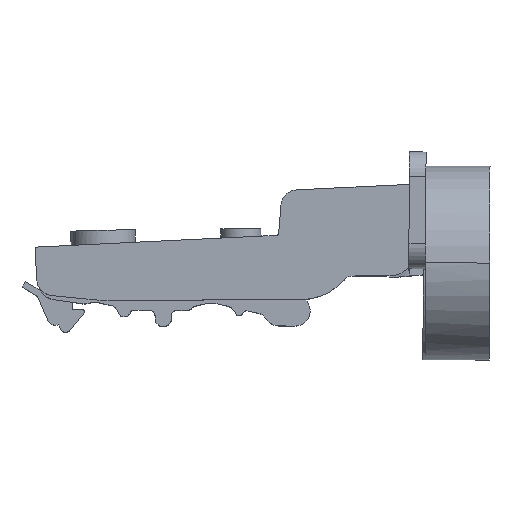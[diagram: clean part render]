
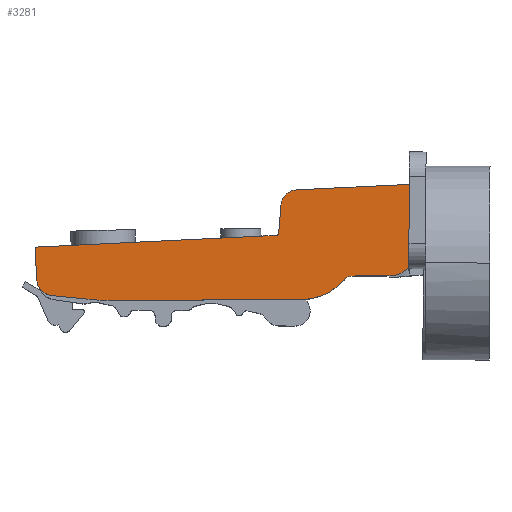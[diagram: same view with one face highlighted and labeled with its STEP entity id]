
A CAD part, top view. The second image highlights one B-rep face of the part: STEP entity #3281.
In plain terms, the highlighted planar face has unit normal (0, 0, 1).
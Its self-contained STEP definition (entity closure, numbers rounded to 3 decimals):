
#126 = DIRECTION ( 'NONE',  ( -0.005, -1., 0. ) ) ;
#179 = CARTESIAN_POINT ( 'NONE',  ( 9.227, 8.721, 0. ) ) ;
#188 = CARTESIAN_POINT ( 'NONE',  ( 0.985, 3.483, 0. ) ) ;
#225 = EDGE_CURVE ( 'NONE', #2220, #3411, #3207, .T. ) ;
#313 = CARTESIAN_POINT ( 'NONE',  ( 12.701, 20.652, 0. ) ) ;
#338 = CARTESIAN_POINT ( 'NONE',  ( -11.253, 11.984, 0. ) ) ;
#362 = AXIS2_PLACEMENT_3D ( 'NONE', #1725, #600, #3618 ) ;
#369 = CIRCLE ( 'NONE', #3936, 2. ) ;
#393 = DIRECTION ( 'NONE',  ( 0., 0., -1. ) ) ;
#534 = DIRECTION ( 'NONE',  ( 0., -1., 0. ) ) ;
#564 = CARTESIAN_POINT ( 'NONE',  ( 12.701, 20.652, 0. ) ) ;
#566 = VERTEX_POINT ( 'NONE', #613 ) ;
#600 = DIRECTION ( 'NONE',  ( 0., 0., -1. ) ) ;
#604 = CIRCLE ( 'NONE', #3391, 0.5 ) ;
#613 = CARTESIAN_POINT ( 'NONE',  ( -54.515, 9.375, 0. ) ) ;
#705 = CARTESIAN_POINT ( 'NONE',  ( -40.97, -0.207, 0. ) ) ;
#730 = VECTOR ( 'NONE', #953, 1000. ) ;
#818 = ORIENTED_EDGE ( 'NONE', *, *, #4715, .F. ) ;
#844 = ORIENTED_EDGE ( 'NONE', *, *, #3432, .F. ) ;
#953 = DIRECTION ( 'NONE',  ( 0.082, 0.997, 0. ) ) ;
#985 = CARTESIAN_POINT ( 'NONE',  ( -10.754, 11.943, 0. ) ) ;
#988 = VECTOR ( 'NONE', #1754, 1000. ) ;
#1042 = DIRECTION ( 'NONE',  ( 0., -1., 0. ) ) ;
#1072 = AXIS2_PLACEMENT_3D ( 'NONE', #1081, #2605, #1733 ) ;
#1081 = CARTESIAN_POINT ( 'NONE',  ( -7.354, 16.672, 0. ) ) ;
#1098 = VERTEX_POINT ( 'NONE', #1877 ) ;
#1122 = LINE ( 'NONE', #1473, #4298 ) ;
#1123 = CARTESIAN_POINT ( 'NONE',  ( -44.106, -0.058, 0. ) ) ;
#1347 = ORIENTED_EDGE ( 'NONE', *, *, #3587, .F. ) ;
#1366 = ORIENTED_EDGE ( 'NONE', *, *, #1675, .F. ) ;
#1406 = FACE_OUTER_BOUND ( 'NONE', #1715, .T. ) ;
#1473 = CARTESIAN_POINT ( 'NONE',  ( 9.25, 4.221, 0. ) ) ;
#1560 = VERTEX_POINT ( 'NONE', #3605 ) ;
#1675 = EDGE_CURVE ( 'NONE', #4695, #4118, #4308, .T. ) ;
#1694 = ORIENTED_EDGE ( 'NONE', *, *, #2487, .F. ) ;
#1713 = DIRECTION ( 'NONE',  ( 0., 0., -1. ) ) ;
#1715 = EDGE_LOOP ( 'NONE', ( #2943, #4752, #1827, #1726, #2925, #1347, #1366, #2878, #3948, #1694, #2862, #3584, #818, #2846, #844 ) ) ;
#1725 = CARTESIAN_POINT ( 'NONE',  ( -51.24, 3.67, 0. ) ) ;
#1726 = ORIENTED_EDGE ( 'NONE', *, *, #4912, .F. ) ;
#1733 = DIRECTION ( 'NONE',  ( 0., -1., 0. ) ) ;
#1739 = DIRECTION ( 'NONE',  ( 0., 0., 1. ) ) ;
#1749 = DIRECTION ( 'NONE',  ( 0., -1., 0. ) ) ;
#1754 = DIRECTION ( 'NONE',  ( -0.049, 0.999, 0. ) ) ;
#1786 = CARTESIAN_POINT ( 'NONE',  ( 20.681, 9.733, 0. ) ) ;
#1827 = ORIENTED_EDGE ( 'NONE', *, *, #2463, .F. ) ;
#1877 = CARTESIAN_POINT ( 'NONE',  ( -10.344, 16.918, 0. ) ) ;
#1891 = CARTESIAN_POINT ( 'NONE',  ( -41.121, 29.793, 0. ) ) ;
#1955 = CARTESIAN_POINT ( 'NONE',  ( -44.106, -0.058, 0. ) ) ;
#1977 = LINE ( 'NONE', #3490, #4657 ) ;
#2025 = CIRCLE ( 'NONE', #4807, 4.5 ) ;
#2045 = VECTOR ( 'NONE', #126, 1000. ) ;
#2105 = EDGE_CURVE ( 'NONE', #3290, #1098, #2178, .T. ) ;
#2163 = CARTESIAN_POINT ( 'NONE',  ( 2.508, 2.187, 0. ) ) ;
#2170 = DIRECTION ( 'NONE',  ( 0.999, 0.049, 0. ) ) ;
#2178 = LINE ( 'NONE', #2208, #730 ) ;
#2208 = CARTESIAN_POINT ( 'NONE',  ( -10.344, 16.918, 0. ) ) ;
#2220 = VERTEX_POINT ( 'NONE', #705 ) ;
#2224 = EDGE_CURVE ( 'NONE', #2339, #2268, #1122, .T. ) ;
#2246 = EDGE_CURVE ( 'NONE', #1560, #3702, #4181, .T. ) ;
#2268 = VERTEX_POINT ( 'NONE', #3816 ) ;
#2322 = DIRECTION ( 'NONE',  ( -0.995, 0.1, 0. ) ) ;
#2323 = VECTOR ( 'NONE', #2649, 1000. ) ;
#2339 = VERTEX_POINT ( 'NONE', #2776 ) ;
#2374 = VERTEX_POINT ( 'NONE', #4323 ) ;
#2412 = LINE ( 'NONE', #564, #2045 ) ;
#2463 = EDGE_CURVE ( 'NONE', #2374, #4851, #3931, .T. ) ;
#2487 = EDGE_CURVE ( 'NONE', #2982, #2339, #2025, .T. ) ;
#2549 = EDGE_CURVE ( 'NONE', #566, #2810, #3293, .T. ) ;
#2605 = DIRECTION ( 'NONE',  ( 0., 0., -1. ) ) ;
#2649 = DIRECTION ( 'NONE',  ( 0.999, 0.049, 0. ) ) ;
#2678 = AXIS2_PLACEMENT_3D ( 'NONE', #1786, #1739, #2934 ) ;
#2710 = CARTESIAN_POINT ( 'NONE',  ( 12.631, 5.778, 0. ) ) ;
#2776 = CARTESIAN_POINT ( 'NONE',  ( 9.25, 4.221, 0. ) ) ;
#2810 = VERTEX_POINT ( 'NONE', #4872 ) ;
#2846 = ORIENTED_EDGE ( 'NONE', *, *, #2105, .F. ) ;
#2862 = ORIENTED_EDGE ( 'NONE', *, *, #4270, .F. ) ;
#2878 = ORIENTED_EDGE ( 'NONE', *, *, #2951, .F. ) ;
#2925 = ORIENTED_EDGE ( 'NONE', *, *, #225, .F. ) ;
#2934 = DIRECTION ( 'NONE',  ( 1., 0.005, 0. ) ) ;
#2943 = ORIENTED_EDGE ( 'NONE', *, *, #2549, .F. ) ;
#2951 = EDGE_CURVE ( 'NONE', #2268, #4695, #369, .T. ) ;
#2982 = VERTEX_POINT ( 'NONE', #2710 ) ;
#3089 = LINE ( 'NONE', #1123, #3534 ) ;
#3207 = CIRCLE ( 'NONE', #3607, 30. ) ;
#3231 = DIRECTION ( 'NONE',  ( 0., -1., 0. ) ) ;
#3281 = ADVANCED_FACE ( 'NONE', ( #1406 ), #3729, .T. ) ;
#3290 = VERTEX_POINT ( 'NONE', #985 ) ;
#3293 = LINE ( 'NONE', #4806, #3785 ) ;
#3310 = DIRECTION ( 'NONE',  ( 0., 0., 1. ) ) ;
#3347 = CARTESIAN_POINT ( 'NONE',  ( -54.221, 3.335, 0. ) ) ;
#3376 = DIRECTION ( 'NONE',  ( 0., 0., 1. ) ) ;
#3391 = AXIS2_PLACEMENT_3D ( 'NONE', #338, #3376, #534 ) ;
#3411 = VERTEX_POINT ( 'NONE', #1955 ) ;
#3432 = EDGE_CURVE ( 'NONE', #2810, #3290, #604, .T. ) ;
#3441 = AXIS2_PLACEMENT_3D ( 'NONE', #4313, #1713, #3231 ) ;
#3490 = CARTESIAN_POINT ( 'NONE',  ( -6.578, -0.033, 0. ) ) ;
#3534 = VECTOR ( 'NONE', #2322, 1000. ) ;
#3584 = ORIENTED_EDGE ( 'NONE', *, *, #2246, .F. ) ;
#3587 = EDGE_CURVE ( 'NONE', #4118, #2220, #1977, .T. ) ;
#3605 = CARTESIAN_POINT ( 'NONE',  ( -7.5, 19.668, 0. ) ) ;
#3607 = AXIS2_PLACEMENT_3D ( 'NONE', #1891, #393, #4211 ) ;
#3618 = DIRECTION ( 'NONE',  ( 0., -1., 0. ) ) ;
#3671 = LINE ( 'NONE', #4859, #988 ) ;
#3702 = VERTEX_POINT ( 'NONE', #4377 ) ;
#3729 = PLANE ( 'NONE',  #2678 ) ;
#3746 = DIRECTION ( 'NONE',  ( -1., -0.005, 0. ) ) ;
#3785 = VECTOR ( 'NONE', #2170, 1000. ) ;
#3816 = CARTESIAN_POINT ( 'NONE',  ( 2.498, 4.187, 0. ) ) ;
#3931 = CIRCLE ( 'NONE', #362, 3. ) ;
#3936 = AXIS2_PLACEMENT_3D ( 'NONE', #2163, #3310, #1042 ) ;
#3948 = ORIENTED_EDGE ( 'NONE', *, *, #2224, .F. ) ;
#4118 = VERTEX_POINT ( 'NONE', #4197 ) ;
#4181 = LINE ( 'NONE', #313, #2323 ) ;
#4197 = CARTESIAN_POINT ( 'NONE',  ( -6.578, -0.033, 0. ) ) ;
#4211 = DIRECTION ( 'NONE',  ( 0., -1., 0. ) ) ;
#4237 = CIRCLE ( 'NONE', #1072, 3. ) ;
#4270 = EDGE_CURVE ( 'NONE', #3702, #2982, #2412, .T. ) ;
#4298 = VECTOR ( 'NONE', #3746, 1000. ) ;
#4308 = CIRCLE ( 'NONE', #3441, 10. ) ;
#4313 = CARTESIAN_POINT ( 'NONE',  ( -6.629, 9.967, 0. ) ) ;
#4323 = CARTESIAN_POINT ( 'NONE',  ( -51.538, 0.685, 0. ) ) ;
#4377 = CARTESIAN_POINT ( 'NONE',  ( 12.701, 20.652, 0. ) ) ;
#4632 = DIRECTION ( 'NONE',  ( -1., -0.005, 0. ) ) ;
#4657 = VECTOR ( 'NONE', #4632, 1000. ) ;
#4695 = VERTEX_POINT ( 'NONE', #188 ) ;
#4706 = EDGE_CURVE ( 'NONE', #4851, #566, #3671, .T. ) ;
#4715 = EDGE_CURVE ( 'NONE', #1098, #1560, #4237, .T. ) ;
#4752 = ORIENTED_EDGE ( 'NONE', *, *, #4706, .F. ) ;
#4781 = DIRECTION ( 'NONE',  ( 0., 0., -1. ) ) ;
#4806 = CARTESIAN_POINT ( 'NONE',  ( -15.043, 11.299, 0. ) ) ;
#4807 = AXIS2_PLACEMENT_3D ( 'NONE', #179, #4781, #1749 ) ;
#4851 = VERTEX_POINT ( 'NONE', #3347 ) ;
#4859 = CARTESIAN_POINT ( 'NONE',  ( -54.221, 3.335, 0. ) ) ;
#4872 = CARTESIAN_POINT ( 'NONE',  ( -11.228, 11.485, 0. ) ) ;
#4912 = EDGE_CURVE ( 'NONE', #3411, #2374, #3089, .T. ) ;
